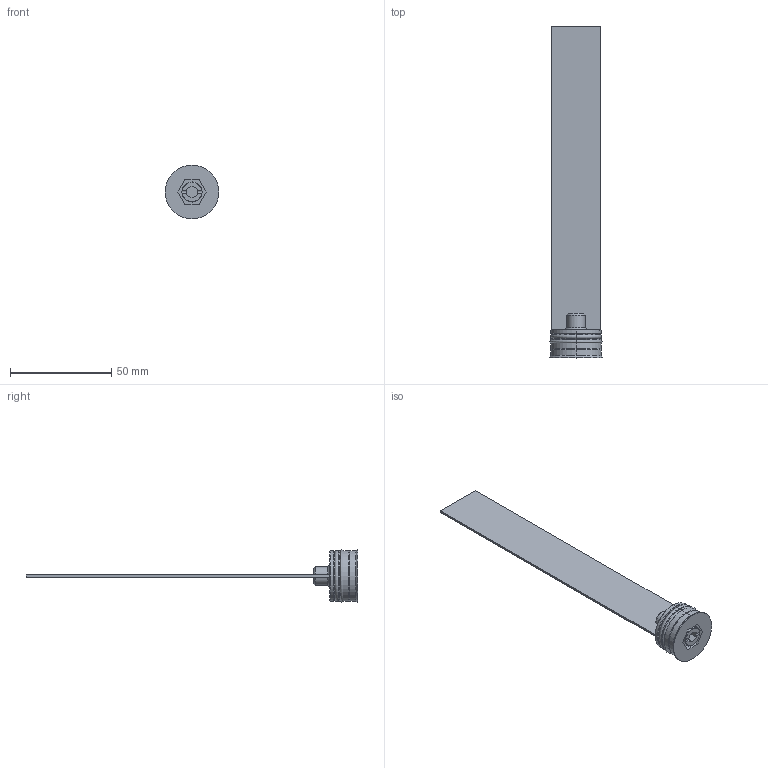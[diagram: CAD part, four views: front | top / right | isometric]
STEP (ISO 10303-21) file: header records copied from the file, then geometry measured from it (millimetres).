
FILE_DESCRIPTION (( 'STEP AP203' ), '1' );
FILE_NAME ('RL-25Fx150-24,5.STEP', '2015-12-04T07:27:50', ( 'Balzi' ), ( '' ), 'SwSTEP 2.0', 'SolidWorks 2015', '' );
FILE_SCHEMA (( 'CONFIG_CONTROL_DESIGN' ));
Length unit declared in the file: millimetre
Products named in the file (1): RL-25Fx150-24,5
Bounding box: 26.5 x 164 x 26.5 mm (x, y, z)
Volume: 10629.3 mm3; surface area: 10609.7 mm2
Topology: 1 solids, 1 shells, 75 faces, 177 edges, 109 vertices
Faces by surface type: plane 31, cone 19, cylinder 17, torus 8
Entity records: 2245 total; most frequent: CARTESIAN_POINT 412, DIRECTION 386, ORIENTED_EDGE 354, EDGE_CURVE 177, AXIS2_PLACEMENT_3D 147, VERTEX_POINT 109, VECTOR 92, LINE 92
